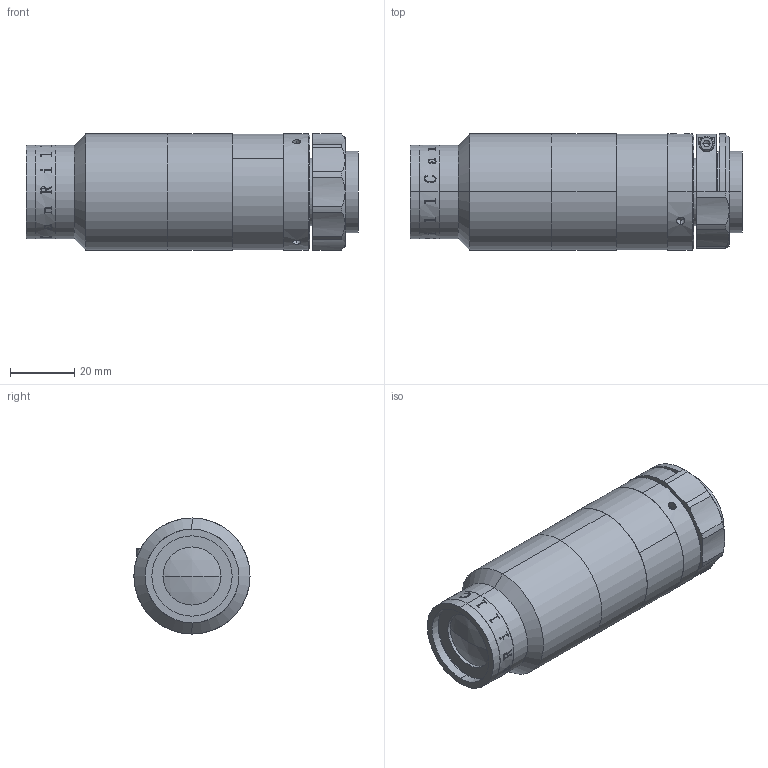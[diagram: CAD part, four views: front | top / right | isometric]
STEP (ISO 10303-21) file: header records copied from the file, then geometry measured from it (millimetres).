
FILE_DESCRIPTION (( 'STEP AP203' ), '1' );
FILE_NAME ('XF-MH055X149.STEP', '2020-04-10T09:25:04', ( 'canrill005' ), ( '' ), 'SwSTEP 2.0', 'SolidWorks 2014', '' );
FILE_SCHEMA (( 'CONFIG_CONTROL_DESIGN' ));
Length unit declared in the file: millimetre
Products named in the file (1): XF-MH055X149
Bounding box: 103 x 36 x 36 mm (x, y, z)
Surface area: 17672.3 mm2 (no closed solid volume)
Topology: 0 solids, 22 shells, 135 faces, 848 edges, 738 vertices
Faces by surface type: cylinder 69, plane 35, cone 15, bspline 12, sphere 2, torus 2
Entity records: 15610 total; most frequent: CARTESIAN_POINT 9629, DIRECTION 1089, ORIENTED_EDGE 1063, EDGE_CURVE 846, VERTEX_POINT 738, AXIS2_PLACEMENT_3D 424, B_SPLINE_CURVE_WITH_KNOTS 305, CIRCLE 300
